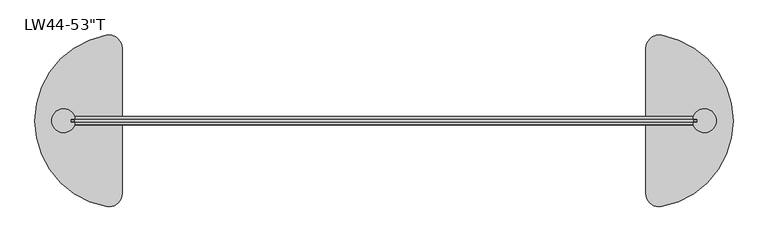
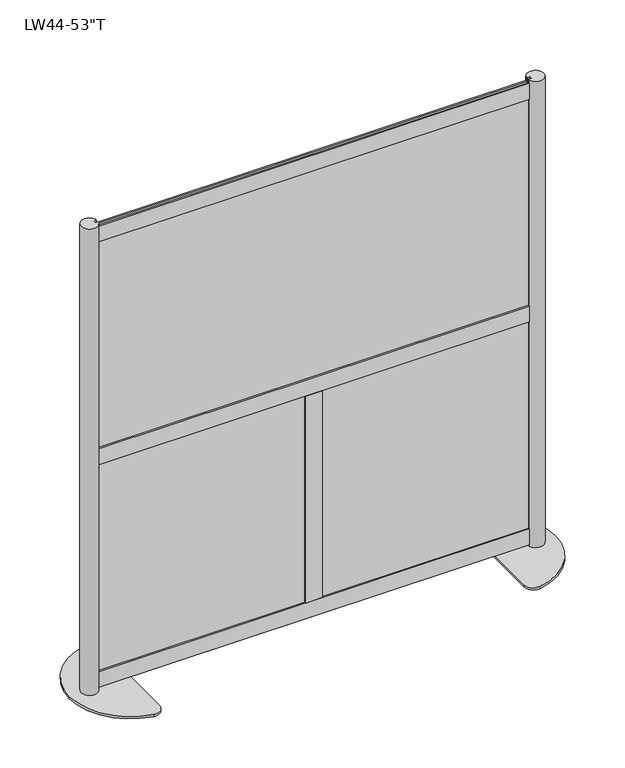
"""IFC4 building model written with IfcOpenShell, lengths in millimetres: furniture geometry."""

from ifc_helpers import new_model, si_unit, point, frame, frame_2d, origin, origin_with_axes, place, context, project, spatial, polyline, circle_curve, trimmed, segment, composite_curve, outline, extrude, source, transform, mapped, element, save


def furniture_4ea784c6(model_context):
    return source(origin(), model_context, "Body", "SweptSolid", [
        extrude(outline(polyline([(594.51875, -1.5875), (-594.51875, -1.5875), (-594.51875, 1.5875), (594.51875, 1.5875), (594.51875, -1.5875)])), frame((0.0, 0.0, 689.2671), z_axis=(0.0, 0.0, 1.0), x_axis=(1.0, 0.0, 0.0)), (0.0, 0.0, 1.0), 608.965),
        extrude(outline(polyline([(592.9137189, 1.5875), (592.9138926, -1.5875), (15.0638917, -1.5875), (15.063718, 1.5875), (592.9137189, 1.5875)])), frame((0.0, 0.0, 49.2633), z_axis=(0.0, 0.0, 1.0), x_axis=(1.0, 0.0, 0.0)), (0.0, 0.0, 1.0), 608.965),
        extrude(outline(polyline([(-592.9137189, 1.5875), (-15.063718, 1.5875), (-15.0638917, -1.5875), (-592.9138926, -1.5875), (-592.9137189, 1.5875)])), frame((0.0, 0.0, 49.2633), z_axis=(0.0, 0.0, 1.0), x_axis=(1.0, 0.0, 0.0)), (0.0, 0.0, 1.0), 608.965),
        extrude(outline(polyline([(-22.6314, 3.556), (-22.6314, 7.6327), (22.6314, 7.6327), (22.6314, 3.556), (15.5194, 3.556), (15.5194, -3.556), (22.6314, -3.556), (22.6314, -7.6327), (-22.6314, -7.6327), (-22.6314, -3.556), (-15.5194, -3.556), (-15.5194, 3.556), (-22.6314, 3.556)])), frame((0.0, 0.0, 56.3753), z_axis=(0.0, 0.0, 1.0), x_axis=(1.0, 0.0, 0.0)), (0.0, 0.0, 1.0), 594.741),
        extrude(outline(polyline([(3.556, 651.1163), (3.556, 658.2283), (-3.556, 658.2283), (-3.556, 651.1163), (-7.6327, 651.1163), (-7.6327, 696.3791), (-3.556, 696.3791), (-3.556, 689.2671), (3.556, 689.2671), (3.556, 696.3791), (7.6327, 696.3791), (7.6327, 651.1163), (3.556, 651.1163)])), frame((-584.9874, 0.0, 0.0), z_axis=(1.0, 0.0, 0.0), x_axis=(0.0, 1.0, 0.0)), (0.0, 0.0, 1.0), 1169.9748),
        extrude(outline(polyline([(3.556, 11.1125), (3.556, 18.2245), (-3.556, 18.2245), (-3.556, 11.1125), (-7.6327, 11.1125), (-7.6327, 56.3753), (-3.556, 56.3753), (-3.556, 49.2633), (3.556, 49.2633), (3.556, 56.3753), (7.6327, 56.3753), (7.6327, 11.1125), (3.556, 11.1125)])), frame((-585.0636, 0.0, 0.0), z_axis=(1.0, 0.0, 0.0), x_axis=(0.0, 1.0, 0.0)), (0.0, 0.0, 1.0), 1170.1272),
        extrude(outline(polyline([(3.556, 1291.1200292), (3.556, 1298.2320292), (-3.556, 1298.2320292), (-3.556, 1291.1200292), (-7.6327, 1291.1200292), (-7.6327, 1336.3828292), (-3.556, 1336.3828292), (-3.556, 1329.2708292), (3.556, 1329.2708292), (3.556, 1336.3828292), (7.6327, 1336.3828292), (7.6327, 1291.1200292), (3.556, 1291.1200292)])), frame((-585.0636, 0.0, 0.0), z_axis=(1.0, 0.0, 0.0), x_axis=(0.0, 1.0, 0.0)), (0.0, 0.0, 1.0), 1170.1272),
        extrude(outline(composite_curve([segment(polyline([(585.0636, -7.7568093), (585.0636, -3.556), (592.1756, -3.556), (592.1756, 3.556), (585.0636, 3.556), (585.0636, 7.7568093)]), True, "CONTINUOUS"), segment(trimmed(circle_curve(frame_2d((606.1665837, 0.0)), 22.4834163), [point((585.0636, 7.7568093))], [point((585.0636, -7.7568093))], False, "CARTESIAN"), True, "CONTINUOUS")], self_intersect=False)), frame((0.0, 0.0, 6.35), z_axis=(0.0, 0.0, 1.0), x_axis=(1.0, 0.0, 0.0)), (0.0, 0.0, 1.0), 1339.85),
        extrude(outline(composite_curve([segment(polyline([(495.3, -137.3715036), (495.3, 137.3715036)]), True, "CONTINUOUS"), segment(trimmed(circle_curve(frame_2d((520.7, 137.3715036)), 25.4), [point((495.3, 137.3715036))], [point((525.3181818, 162.3481406))], False, "CARTESIAN"), True, "CONTINUOUS"), segment(trimmed(circle_curve(frame_2d((495.3, 0.0)), 165.1), [point((525.3181818, 162.3481406))], [point((660.4, 0.0))], False, "CARTESIAN"), True, "CONTINUOUS"), segment(trimmed(circle_curve(frame_2d((495.3, 0.0)), 165.1), [point((660.4, 0.0))], [point((525.3181818, -162.3481406))], False, "CARTESIAN"), True, "CONTINUOUS"), segment(trimmed(circle_curve(frame_2d((520.7, -137.3715036)), 25.4), [point((525.3181818, -162.3481406))], [point((495.3, -137.3715036))], False, "CARTESIAN"), True, "CONTINUOUS")], self_intersect=False)), origin_with_axes(), (0.0, 0.0, 1.0), 6.35),
        extrude(outline(composite_curve([segment(trimmed(circle_curve(frame_2d((-606.1665837, 0.0)), 22.4834163), [point((-585.0636, -7.7568093))], [point((-585.0636, 7.7568093))], False, "CARTESIAN"), True, "CONTINUOUS"), segment(polyline([(-585.0636, 7.7568093), (-585.0636, 3.556), (-592.1756, 3.556), (-592.1756, -3.556), (-585.0636, -3.556), (-585.0636, -7.7568093)]), True, "CONTINUOUS")], self_intersect=False)), frame((0.0, 0.0, 6.35), z_axis=(0.0, 0.0, 1.0), x_axis=(1.0, 0.0, 0.0)), (0.0, 0.0, 1.0), 1339.85),
        extrude(outline(composite_curve([segment(trimmed(circle_curve(frame_2d((-520.7, -137.3715036)), 25.4), [point((-495.3, -137.3715036))], [point((-525.3181818, -162.3481406))], False, "CARTESIAN"), True, "CONTINUOUS"), segment(trimmed(circle_curve(frame_2d((-495.3, 0.0)), 165.1), [point((-525.3181818, -162.3481406))], [point((-660.4, 0.0))], False, "CARTESIAN"), True, "CONTINUOUS"), segment(trimmed(circle_curve(frame_2d((-495.3, 0.0)), 165.1), [point((-660.4, 0.0))], [point((-525.3181818, 162.3481406))], False, "CARTESIAN"), True, "CONTINUOUS"), segment(trimmed(circle_curve(frame_2d((-520.7, 137.3715036)), 25.4), [point((-525.3181818, 162.3481406))], [point((-495.3, 137.3715036))], False, "CARTESIAN"), True, "CONTINUOUS"), segment(polyline([(-495.3, 137.3715036), (-495.3, -137.3715036)]), True, "CONTINUOUS")], self_intersect=False)), origin_with_axes(), (0.0, 0.0, 1.0), 6.35),
    ])


if __name__ == "__main__":
    model = new_model("IFC4")
    model_context = context("Model", 3, world=origin())
    ifc_project = project(units=[si_unit("LENGTHUNIT", "METRE", prefix="MILLI")], contexts=[model_context])
    site = spatial("IfcSite", under=ifc_project)
    building = spatial("IfcBuilding", under=site)
    placement = place(None, origin())
    furniture_shape = furniture_4ea784c6(model_context)
    element("IfcFurniture", 1, ObjectType="Loft_Wall-Framewall-52 : LW44-53\"T", at=placement, inside=building, context=model_context, shape_type="MappedRepresentation", body=[
        mapped(furniture_shape, transform((0.0, 0.0, 0.0), x_axis=(1.0, 0.0, 0.0), y_axis=(0.0, 1.0, 0.0), z_axis=(0.0, 0.0, 1.0))),
    ])
    save(model, "model.ifc")
